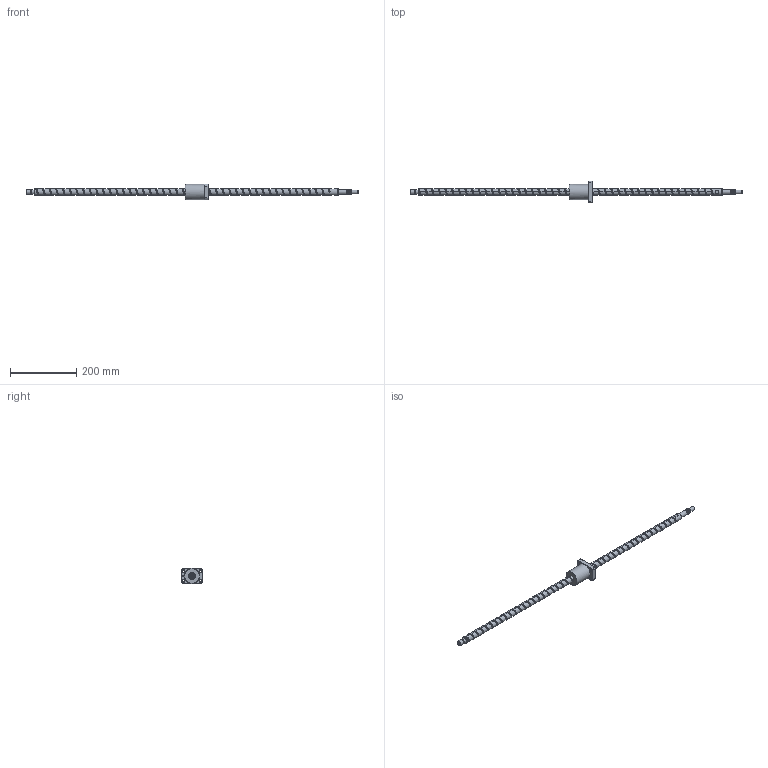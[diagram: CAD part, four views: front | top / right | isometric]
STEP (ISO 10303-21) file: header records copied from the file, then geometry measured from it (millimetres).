
FILE_DESCRIPTION (( 'STEP AP203' ), '1' );
FILE_NAME ('XSVR02020A1DGC5-999-P1.step', '2024-06-03T06:49:05', ( '' ), ( '' ), 'SwSTEP 2.0', 'SolidWorks 2022', '' );
FILE_SCHEMA (( 'CONFIG_CONTROL_DESIGN' ));
Length unit declared in the file: millimetre
Products named in the file (1): XSVR02020A1DGC5-999-P1
Bounding box: 999 x 66 x 46 mm (x, y, z)
Volume: 394996.9 mm3; surface area: 87428.6 mm2
Topology: 2 solids, 2 shells, 201 faces, 553 edges, 364 vertices
Faces by surface type: cylinder 103, plane 40, bspline 29, cone 20, torus 9
Full cylindrical faces by diameter (mm): 4 x1, 5 x15, 6.6 x4, 11 x4, 12 x1, 14.3 x1, 15 x16, 20 x45, 22.1 x1, 46 x1
Entity records: 30912 total; most frequent: CARTESIAN_POINT 28294, ORIENTED_EDGE 576, DIRECTION 407, EDGE_CURVE 288, VERTEX_POINT 206, EDGE_LOOP 184, AXIS2_PLACEMENT_3D 178, FACE_OUTER_BOUND 146
